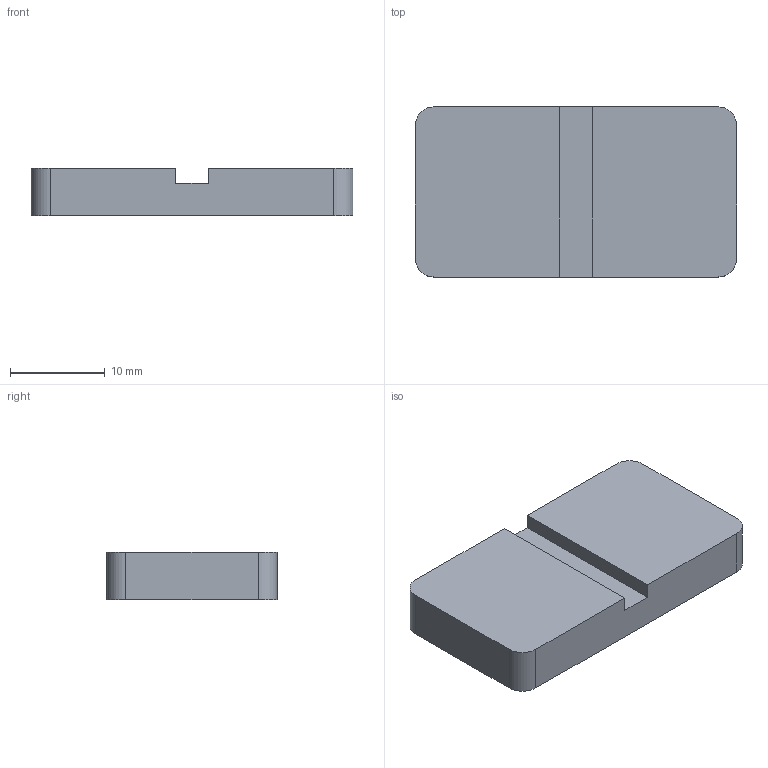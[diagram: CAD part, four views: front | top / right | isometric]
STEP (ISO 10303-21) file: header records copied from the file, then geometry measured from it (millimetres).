
FILE_DESCRIPTION(('FreeCAD Model'),'2;1');
FILE_NAME('Open CASCADE Shape Model','2026-09-29T21:58:28',('Author'),( ''),'Open CASCADE STEP processor 7.8','FreeCAD','Unknown');
FILE_SCHEMA(('AUTOMOTIVE_DESIGN { 1 0 10303 214 1 1 1 1 }'));
Length unit declared in the file: millimetre
Products named in the file (1): face_stop_coupon_1p6
Bounding box: 34 x 18 x 5 mm (x, y, z)
Volume: 2944.9 mm3; surface area: 1766.7 mm2
Topology: 1 solids, 1 shells, 14 faces, 36 edges, 24 vertices
Faces by surface type: plane 10, cylinder 4
Entity records: 438 total; most frequent: CARTESIAN_POINT 75, DIRECTION 74, ORIENTED_EDGE 72, EDGE_CURVE 36, LINE 28, VECTOR 28, VERTEX_POINT 24, AXIS2_PLACEMENT_3D 23
